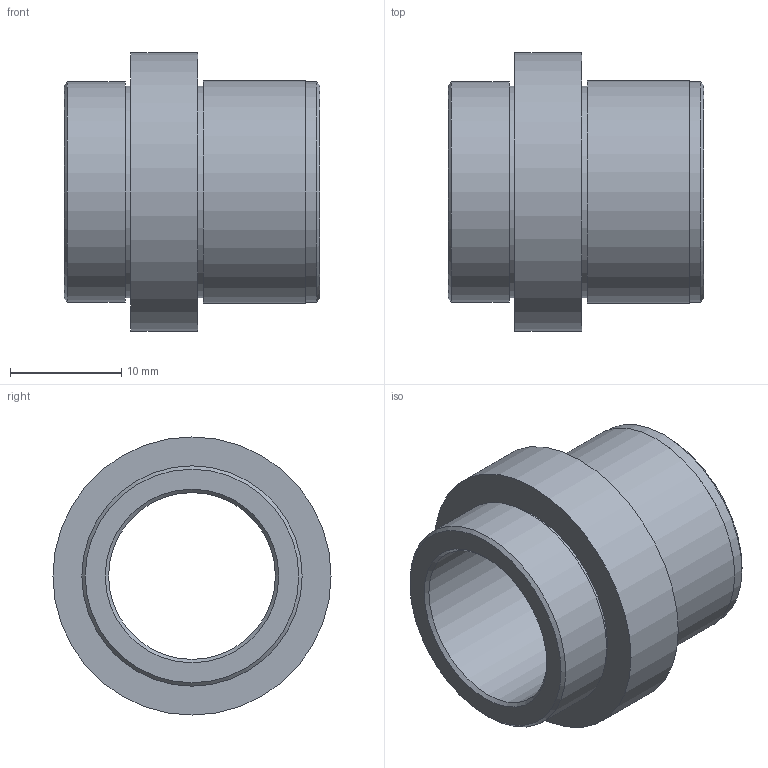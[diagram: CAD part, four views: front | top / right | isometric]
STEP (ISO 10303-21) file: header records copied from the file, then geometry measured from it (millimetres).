
FILE_DESCRIPTION(/* description */ ('Impex Ready, www.impex-ready.pl'),/* implementation_level */ '2;1');
FILE_NAME(/* name */ 'C:\Users\VIKKY\Nextcloud\SM\projekt 10 - części na stronę internetową\Pliki_3D_new\308 Tuleje BG06\308 BG06_STEP\BG06.015017.ipt.step',/* time_stamp */ '2021-12-21T17:32:12+01:00',/* author */ ('SM'),/* organization */ (''),/* preprocessor_version */ 'ST-DEVELOPER v18.1',/* originating_system */ 'Autodesk Inventor 2021',/* authorisation */ '');
FILE_SCHEMA (('AUTOMOTIVE_DESIGN { 1 0 10303 214 3 1 1 }'));
Length unit declared in the file: millimetre
Products named in the file (1): BG06.015017
Bounding box: 23 x 25 x 25 mm (x, y, z)
Volume: 4138.3 mm3; surface area: 3315.7 mm2
Topology: 1 solids, 1 shells, 18 faces, 33 edges, 22 vertices
Faces by surface type: plane 7, cylinder 7, cone 4
Full cylindrical faces by diameter (mm): 15 x1, 19 x2, 19.8 x2, 20 x1, 25 x1
Entity records: 540 total; most frequent: DIRECTION 93, CARTESIAN_POINT 74, ORIENTED_EDGE 66, AXIS2_PLACEMENT_3D 41, EDGE_CURVE 33, EDGE_LOOP 25, CIRCLE 22, VERTEX_POINT 22
